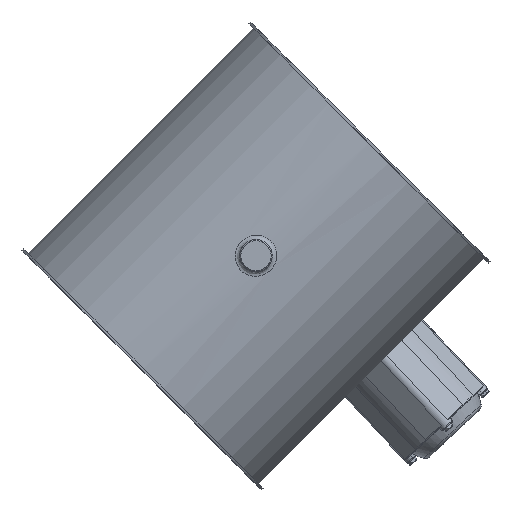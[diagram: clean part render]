
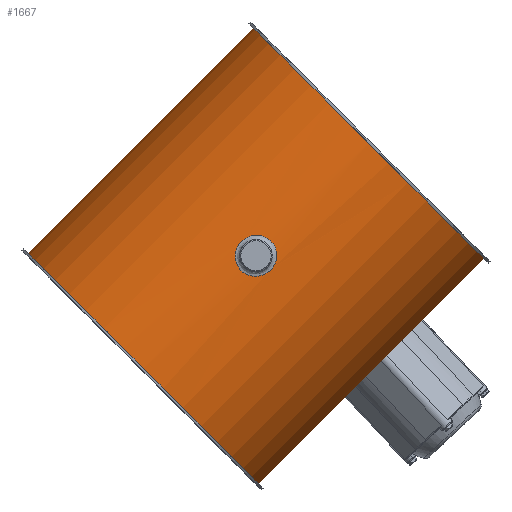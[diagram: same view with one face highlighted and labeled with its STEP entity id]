
A CAD part, top view. The second image highlights one B-rep face of the part: STEP entity #1667.
In plain terms, the highlighted cylindrical face has radius 151.5 mm (diameter 303 mm), a full revolution.
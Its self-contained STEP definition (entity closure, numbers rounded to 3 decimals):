
#1339=CARTESIAN_POINT('',(-150.174,20.0,150.));
#1340=VERTEX_POINT('',#1339);
#1341=CARTESIAN_POINT('',(-150.174,20.0,150.));
#1342=CARTESIAN_POINT('',(-150.174,20.0,151.257));
#1343=CARTESIAN_POINT('',(-150.19,19.88,152.557));
#1344=CARTESIAN_POINT('',(-150.256,19.373,155.141));
#1345=CARTESIAN_POINT('',(-150.306,18.986,156.426));
#1346=CARTESIAN_POINT('',(-150.432,17.965,158.889));
#1347=CARTESIAN_POINT('',(-150.507,17.33,160.07));
#1348=CARTESIAN_POINT('',(-150.669,15.862,162.253));
#1349=CARTESIAN_POINT('',(-150.755,15.029,163.255));
#1350=CARTESIAN_POINT('',(-150.922,13.255,165.029));
#1351=CARTESIAN_POINT('',(-151.008,12.253,165.862));
#1352=CARTESIAN_POINT('',(-151.169,10.07,167.33));
#1353=CARTESIAN_POINT('',(-151.244,8.889,167.965));
#1354=CARTESIAN_POINT('',(-151.369,6.426,168.986));
#1355=CARTESIAN_POINT('',(-151.418,5.141,169.373));
#1356=CARTESIAN_POINT('',(-151.484,2.557,169.88));
#1357=CARTESIAN_POINT('',(-151.5,1.257,170.0));
#1358=CARTESIAN_POINT('',(-151.5,-1.257,170.0));
#1359=CARTESIAN_POINT('',(-151.484,-2.557,169.88));
#1360=CARTESIAN_POINT('',(-151.418,-5.141,169.373));
#1361=CARTESIAN_POINT('',(-151.369,-6.426,168.986));
#1362=CARTESIAN_POINT('',(-151.244,-8.889,167.965));
#1363=CARTESIAN_POINT('',(-151.169,-10.07,167.33));
#1364=CARTESIAN_POINT('',(-151.008,-12.253,165.862));
#1365=CARTESIAN_POINT('',(-150.922,-13.255,165.029));
#1366=CARTESIAN_POINT('',(-150.755,-15.029,163.255));
#1367=CARTESIAN_POINT('',(-150.669,-15.862,162.253));
#1368=CARTESIAN_POINT('',(-150.507,-17.33,160.07));
#1369=CARTESIAN_POINT('',(-150.432,-17.965,158.889));
#1370=CARTESIAN_POINT('',(-150.306,-18.986,156.426));
#1371=CARTESIAN_POINT('',(-150.256,-19.373,155.141));
#1372=CARTESIAN_POINT('',(-150.19,-19.88,152.557));
#1373=CARTESIAN_POINT('',(-150.174,-20.0,151.257));
#1374=CARTESIAN_POINT('',(-150.174,-20.0,148.743));
#1375=CARTESIAN_POINT('',(-150.19,-19.88,147.443));
#1376=CARTESIAN_POINT('',(-150.256,-19.373,144.859));
#1377=CARTESIAN_POINT('',(-150.306,-18.986,143.574));
#1378=CARTESIAN_POINT('',(-150.432,-17.965,141.111));
#1379=CARTESIAN_POINT('',(-150.507,-17.33,139.93));
#1380=CARTESIAN_POINT('',(-150.669,-15.862,137.747));
#1381=CARTESIAN_POINT('',(-150.755,-15.029,136.745));
#1382=CARTESIAN_POINT('',(-150.922,-13.255,134.971));
#1383=CARTESIAN_POINT('',(-151.008,-12.253,134.138));
#1384=CARTESIAN_POINT('',(-151.169,-10.07,132.67));
#1385=CARTESIAN_POINT('',(-151.244,-8.889,132.035));
#1386=CARTESIAN_POINT('',(-151.369,-6.426,131.014));
#1387=CARTESIAN_POINT('',(-151.418,-5.141,130.627));
#1388=CARTESIAN_POINT('',(-151.484,-2.557,130.12));
#1389=CARTESIAN_POINT('',(-151.5,-1.257,130.0));
#1390=CARTESIAN_POINT('',(-151.5,1.257,130.0));
#1391=CARTESIAN_POINT('',(-151.484,2.557,130.12));
#1392=CARTESIAN_POINT('',(-151.418,5.141,130.627));
#1393=CARTESIAN_POINT('',(-151.369,6.426,131.014));
#1394=CARTESIAN_POINT('',(-151.244,8.889,132.035));
#1395=CARTESIAN_POINT('',(-151.169,10.07,132.67));
#1396=CARTESIAN_POINT('',(-151.008,12.253,134.138));
#1397=CARTESIAN_POINT('',(-150.922,13.255,134.971));
#1398=CARTESIAN_POINT('',(-150.755,15.029,136.745));
#1399=CARTESIAN_POINT('',(-150.669,15.862,137.747));
#1400=CARTESIAN_POINT('',(-150.507,17.33,139.93));
#1401=CARTESIAN_POINT('',(-150.432,17.965,141.111));
#1402=CARTESIAN_POINT('',(-150.306,18.986,143.574));
#1403=CARTESIAN_POINT('',(-150.256,19.373,144.859));
#1404=CARTESIAN_POINT('',(-150.19,19.88,147.443));
#1405=CARTESIAN_POINT('',(-150.174,20.,148.743));
#1406=CARTESIAN_POINT('',(-150.174,20.,150.));
#1407=B_SPLINE_CURVE_WITH_KNOTS('',3,(#1341,#1342,#1343,#1344,#1345,#1346,#1347,#1348,#1349,#1350,#1351,#1352,#1353,#1354,#1355,#1356,#1357,#1358,#1359,#1360,#1361,#1362,#1363,#1364,#1365,#1366,#1367,#1368,#1369,#1370,#1371,#1372,#1373,#1374,#1375,#1376,#1377,#1378,#1379,#1380,#1381,#1382,#1383,#1384,#1385,#1386,#1387,#1388,#1389,#1390,#1391,#1392,#1393,#1394,#1395,#1396,#1397,#1398,#1399,#1400,#1401,#1402,#1403,#1404,#1405,#1406),.UNSPECIFIED.,.T.,.U.,(4,2,2,2,2,2,2,2,2,2,2,2,2,2,2,2,2,2,2,2,2,2,2,2,2,2,2,2,2,2,2,2,4),(0.0,0.377,0.754,1.131,1.509,1.886,2.263,2.64,3.017,3.394,3.772,4.149,4.526,4.903,5.28,5.657,6.035,6.412,6.789,7.166,7.543,7.92,8.298,8.675,9.052,9.429,9.806,10.183,10.56,10.938,11.315,11.692,12.069),.UNSPECIFIED.);
#1408=EDGE_CURVE('',#1340,#1340,#1407,.T.);
#1596=CARTESIAN_POINT('',(150.312,18.938,150.0));
#1597=VERTEX_POINT('',#1596);
#1607=CARTESIAN_POINT('',(150.312,18.937,150.));
#1608=CARTESIAN_POINT('',(150.312,18.937,150.002));
#1609=CARTESIAN_POINT('',(150.312,18.937,150.003));
#1610=CARTESIAN_POINT('',(150.312,18.937,150.005));
#1611=CARTESIAN_POINT('',(150.312,18.936,152.909));
#1612=CARTESIAN_POINT('',(150.481,17.664,158.707));
#1613=CARTESIAN_POINT('',(151.057,12.226,165.749));
#1614=CARTESIAN_POINT('',(151.517,4.403,169.649));
#1615=CARTESIAN_POINT('',(151.517,-4.35,169.663));
#1616=CARTESIAN_POINT('',(151.062,-12.184,165.777));
#1617=CARTESIAN_POINT('',(150.415,-18.25,158.));
#1618=CARTESIAN_POINT('',(150.226,-19.581,148.949));
#1619=CARTESIAN_POINT('',(150.586,-16.765,139.525));
#1620=CARTESIAN_POINT('',(151.135,-11.407,133.587));
#1621=CARTESIAN_POINT('',(151.518,-3.402,130.344));
#1622=CARTESIAN_POINT('',(151.518,4.351,130.339));
#1623=CARTESIAN_POINT('',(151.058,12.209,134.23));
#1624=CARTESIAN_POINT('',(150.58,16.736,140.084));
#1625=CARTESIAN_POINT('',(150.353,18.613,145.611));
#1626=CARTESIAN_POINT('',(150.312,18.937,148.55));
#1627=CARTESIAN_POINT('',(150.312,18.937,150.));
#1628=B_SPLINE_CURVE_WITH_KNOTS('',3,(#1607,#1608,#1609,#1610,#1611,#1612,#1613,#1614,#1615,#1616,#1617,#1618,#1619,#1620,#1621,#1622,#1623,#1624,#1625,#1626,#1627),.UNSPECIFIED.,.T.,.U.,(4,3,1,1,1,1,1,1,1,1,1,1,1,1,1,1,4),(-9.047,-9.047,-8.401,-7.754,-7.108,-6.462,-5.816,-5.17,-4.308,-3.877,-3.016,-2.585,-1.939,-1.292,-0.646,-0.323,0.),.UNSPECIFIED.);
#1629=EDGE_CURVE('',#1597,#1597,#1628,.T.);
#1634=CARTESIAN_POINT('',(0.0,0.0,0.0));
#1635=DIRECTION('',(0.0,0.0,1.0));
#1636=DIRECTION('',(-1.0,0.0,0.0));
#1637=AXIS2_PLACEMENT_3D('',#1634,#1635,#1636);
#1638=CYLINDRICAL_SURFACE('',#1637,151.5);
#1639=CARTESIAN_POINT('',(151.5,0.,298.0));
#1640=VERTEX_POINT('',#1639);
#1641=CARTESIAN_POINT('',(0.0,0.0,298.0));
#1642=DIRECTION('',(0.0,0.0,-1.0));
#1643=DIRECTION('',(-1.0,0.0,0.0));
#1644=AXIS2_PLACEMENT_3D('',#1641,#1642,#1643);
#1645=CIRCLE('',#1644,151.5);
#1646=EDGE_CURVE('',#1640,#1640,#1645,.T.);
#1647=ORIENTED_EDGE('',*,*,#1646,.T.);
#1648=EDGE_LOOP('',(#1647));
#1649=FACE_OUTER_BOUND('',#1648,.T.);
#1650=ORIENTED_EDGE('',*,*,#1408,.T.);
#1651=EDGE_LOOP('',(#1650));
#1652=FACE_BOUND('',#1651,.T.);
#1653=CARTESIAN_POINT('',(-151.5,0.,2.0));
#1654=VERTEX_POINT('',#1653);
#1655=CARTESIAN_POINT('',(0.0,0.0,2.0));
#1656=DIRECTION('',(0.0,0.0,1.0));
#1657=DIRECTION('',(-1.0,0.0,0.0));
#1658=AXIS2_PLACEMENT_3D('',#1655,#1656,#1657);
#1659=CIRCLE('',#1658,151.5);
#1660=EDGE_CURVE('',#1654,#1654,#1659,.T.);
#1661=ORIENTED_EDGE('',*,*,#1660,.T.);
#1662=EDGE_LOOP('',(#1661));
#1663=FACE_BOUND('',#1662,.T.);
#1664=ORIENTED_EDGE('',*,*,#1629,.F.);
#1665=EDGE_LOOP('',(#1664));
#1666=FACE_BOUND('',#1665,.T.);
#1667=ADVANCED_FACE('',(#1649,#1652,#1663,#1666),#1638,.T.);
